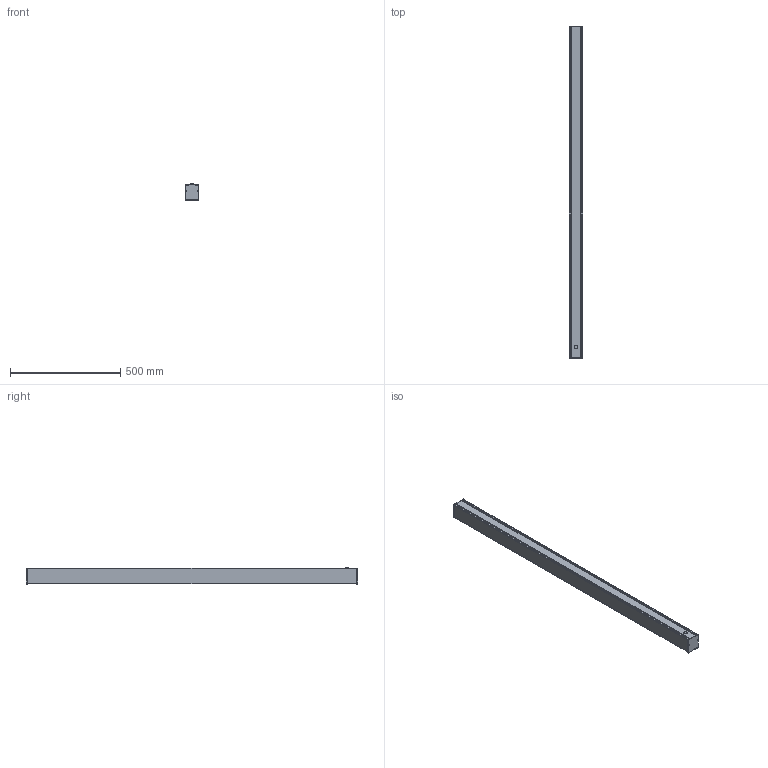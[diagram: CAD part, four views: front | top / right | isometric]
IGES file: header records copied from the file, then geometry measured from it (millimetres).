
Start section: SolidWorks IGES file using NURBS representation for surfaces
Global section: file name: Z:\Modele 3D_WWW\_Commercial\CL-OFFICE-PRO-LED\CL-OFFICE-PRO-LED-150-8294-8292-8295-8293\CL-OFFICE-PRO-LED-150-8294-8292-8295-8293.IGS; native system: SolidWorks 2021; preprocessor: SolidWorks 2021; author: gabriela.tworek; date: 220224.144958; units: millimetre
Bounding box: 63.3 x 1508 x 73.98 mm (x, y, z)
Surface area: 847874.2 mm2 (no closed solid volume)
Topology: 0 solids, 0 shells, 87 faces, 428 edges, 412 vertices
Faces by surface type: bspline 87
